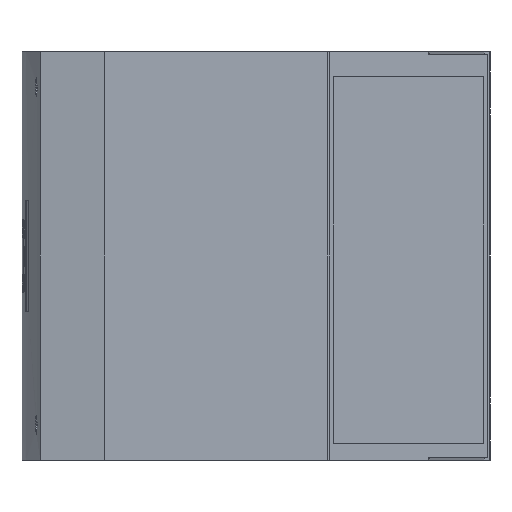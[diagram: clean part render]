
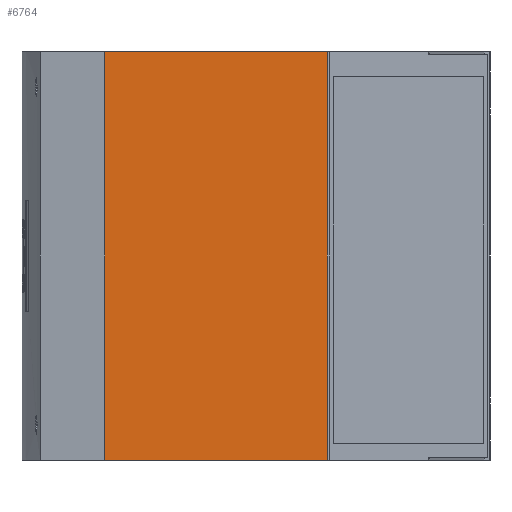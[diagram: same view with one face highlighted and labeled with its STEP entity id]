
A CAD part, left-side view. The second image highlights one B-rep face of the part: STEP entity #6764.
In plain terms, the highlighted planar face has unit normal (-1, 0, 0).
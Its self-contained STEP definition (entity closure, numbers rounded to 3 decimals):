
#65 = EDGE_LOOP ( 'NONE', ( #12229, #6713, #12053, #8318 ) ) ;
#241 = VECTOR ( 'NONE', #8551, 1000. ) ;
#375 = CARTESIAN_POINT ( 'NONE',  ( -220.717, 116.376, 235. ) ) ;
#418 = DIRECTION ( 'NONE',  ( 0., 0., -1. ) ) ;
#1336 = CARTESIAN_POINT ( 'NONE',  ( -220.717, 116.376, 235. ) ) ;
#1452 = VECTOR ( 'NONE', #418, 1000. ) ;
#1474 = VERTEX_POINT ( 'NONE', #2879 ) ;
#1955 = CARTESIAN_POINT ( 'NONE',  ( -220.717, -11.675, 235. ) ) ;
#2879 = CARTESIAN_POINT ( 'NONE',  ( -220.717, 116.376, 235. ) ) ;
#3237 = DIRECTION ( 'NONE',  ( 0., 0., -1. ) ) ;
#3505 = DIRECTION ( 'NONE',  ( 0., -1., 0. ) ) ;
#3597 = VERTEX_POINT ( 'NONE', #10510 ) ;
#4036 = EDGE_CURVE ( 'NONE', #8773, #5026, #6363, .T. ) ;
#4285 = DIRECTION ( 'NONE',  ( 0., -1., 0. ) ) ;
#4295 = CARTESIAN_POINT ( 'NONE',  ( -220.717, -11.675, 0. ) ) ;
#4553 = LINE ( 'NONE', #375, #1452 ) ;
#5026 = VERTEX_POINT ( 'NONE', #4295 ) ;
#5174 = VECTOR ( 'NONE', #4285, 1000. ) ;
#6052 = PLANE ( 'NONE',  #11939 ) ;
#6069 = CARTESIAN_POINT ( 'NONE',  ( -220.717, 116.376, 235. ) ) ;
#6342 = EDGE_CURVE ( 'NONE', #1474, #3597, #9731, .T. ) ;
#6363 = LINE ( 'NONE', #10145, #9183 ) ;
#6713 = ORIENTED_EDGE ( 'NONE', *, *, #7911, .F. ) ;
#6764 = ADVANCED_FACE ( 'NONE', ( #11800 ), #6052, .F. ) ;
#6904 = DIRECTION ( 'NONE',  ( 1., 0., 0. ) ) ;
#6933 = CARTESIAN_POINT ( 'NONE',  ( -220.717, 116.376, 0. ) ) ;
#7125 = EDGE_CURVE ( 'NONE', #1474, #8773, #4553, .T. ) ;
#7911 = EDGE_CURVE ( 'NONE', #3597, #5026, #8984, .T. ) ;
#8318 = ORIENTED_EDGE ( 'NONE', *, *, #7125, .T. ) ;
#8551 = DIRECTION ( 'NONE',  ( 0., 0., -1. ) ) ;
#8773 = VERTEX_POINT ( 'NONE', #6933 ) ;
#8984 = LINE ( 'NONE', #1955, #241 ) ;
#9183 = VECTOR ( 'NONE', #3505, 1000. ) ;
#9731 = LINE ( 'NONE', #6069, #5174 ) ;
#10145 = CARTESIAN_POINT ( 'NONE',  ( -220.717, 116.376, 0. ) ) ;
#10510 = CARTESIAN_POINT ( 'NONE',  ( -220.717, -11.675, 235. ) ) ;
#11800 = FACE_OUTER_BOUND ( 'NONE', #65, .T. ) ;
#11939 = AXIS2_PLACEMENT_3D ( 'NONE', #1336, #6904, #3237 ) ;
#12053 = ORIENTED_EDGE ( 'NONE', *, *, #6342, .F. ) ;
#12229 = ORIENTED_EDGE ( 'NONE', *, *, #4036, .T. ) ;
